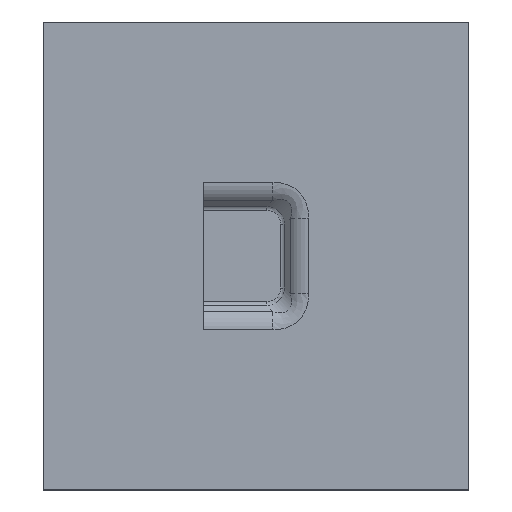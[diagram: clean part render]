
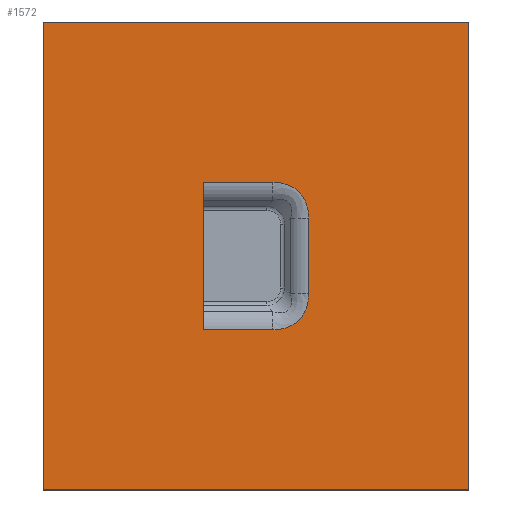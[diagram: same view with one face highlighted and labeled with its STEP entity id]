
A CAD part, top view. The second image highlights one B-rep face of the part: STEP entity #1572.
In plain terms, the highlighted planar face has unit normal (0, 0, 1).
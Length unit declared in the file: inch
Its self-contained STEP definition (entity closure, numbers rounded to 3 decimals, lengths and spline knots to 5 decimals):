
#591=CARTESIAN_POINT('',(-13.59019,2.49532,2.60036));
#592=VERTEX_POINT('',#591);
#599=CARTESIAN_POINT('',(-13.59019,3.95354,2.60036));
#600=VERTEX_POINT('',#599);
#601=CARTESIAN_POINT('',(-13.59019,3.22443,2.60036));
#602=DIRECTION('',(0.0,1.0,0.0));
#603=VECTOR('',#602,39.37008);
#604=LINE('',#601,#603);
#605=EDGE_CURVE('',#592,#600,#604,.T.);
#631=CARTESIAN_POINT('',(-12.26303,2.49532,2.60036));
#632=VERTEX_POINT('',#631);
#647=CARTESIAN_POINT('',(-12.26303,3.95354,2.60036));
#648=VERTEX_POINT('',#647);
#655=CARTESIAN_POINT('',(-12.26303,2.49532,2.60036));
#656=DIRECTION('',(0.0,1.0,0.0));
#657=VECTOR('',#656,39.37008);
#658=LINE('',#655,#657);
#659=EDGE_CURVE('',#632,#648,#658,.T.);
#677=CARTESIAN_POINT('',(-12.92661,2.49532,2.60036));
#678=DIRECTION('',(1.0,0.0,0.0));
#679=VECTOR('',#678,39.37008);
#680=LINE('',#677,#679);
#681=EDGE_CURVE('',#592,#632,#680,.T.);
#1028=CARTESIAN_POINT('',(-12.87405,2.99494,2.60036));
#1029=VERTEX_POINT('',#1028);
#1038=CARTESIAN_POINT('',(-13.09059,2.99494,2.60036));
#1039=VERTEX_POINT('',#1038);
#1047=CARTESIAN_POINT('',(-12.87405,2.99494,2.60036));
#1048=DIRECTION('',(1.0,0.0,0.0));
#1049=VECTOR('',#1048,39.37008);
#1050=LINE('',#1047,#1049);
#1051=EDGE_CURVE('',#1039,#1029,#1050,.T.);
#1069=CARTESIAN_POINT('',(-12.92661,3.95354,2.60036));
#1070=DIRECTION('',(1.0,0.0,0.0));
#1071=VECTOR('',#1070,39.37008);
#1072=LINE('',#1069,#1071);
#1073=EDGE_CURVE('',#600,#648,#1072,.T.);
#1326=CARTESIAN_POINT('',(-12.7627,3.1063,2.60036));
#1327=VERTEX_POINT('',#1326);
#1356=CARTESIAN_POINT('',(-12.87405,2.99494,2.60036));
#1357=CARTESIAN_POINT('',(-12.85849,2.99494,2.60036));
#1358=CARTESIAN_POINT('',(-12.83002,2.9989,2.60036));
#1359=CARTESIAN_POINT('',(-12.79204,3.02056,2.60036));
#1360=CARTESIAN_POINT('',(-12.76842,3.05652,2.60036));
#1361=CARTESIAN_POINT('',(-12.7627,3.08831,2.60036));
#1362=CARTESIAN_POINT('',(-12.7627,3.1063,2.60036));
#1363=B_SPLINE_CURVE_WITH_KNOTS('',3,(#1356,#1357,#1358,#1359,#1360,#1361,#1362),.UNSPECIFIED.,.F.,.F.,(4,1,1,1,4),(-0.99999,-0.75,-0.5,-0.25,0.0),.UNSPECIFIED.);
#1364=EDGE_CURVE('',#1029,#1327,#1363,.T.);
#1523=ORIENTED_EDGE('',*,*,#681,.T.);
#1524=ORIENTED_EDGE('',*,*,#659,.T.);
#1525=ORIENTED_EDGE('',*,*,#1073,.F.);
#1526=ORIENTED_EDGE('',*,*,#605,.F.);
#1527=EDGE_LOOP('',(#1523,#1524,#1525,#1526));
#1528=FACE_OUTER_BOUND('',#1527,.T.);
#1529=CARTESIAN_POINT('',(-12.7627,3.34252,2.60036));
#1530=VERTEX_POINT('',#1529);
#1531=CARTESIAN_POINT('',(-12.7627,3.34252,2.60036));
#1532=DIRECTION('',(0.0,-1.0,0.0));
#1533=VECTOR('',#1532,39.37008);
#1534=LINE('',#1531,#1533);
#1535=EDGE_CURVE('',#1530,#1327,#1534,.T.);
#1536=ORIENTED_EDGE('',*,*,#1535,.T.);
#1537=ORIENTED_EDGE('',*,*,#1364,.F.);
#1538=ORIENTED_EDGE('',*,*,#1051,.F.);
#1539=CARTESIAN_POINT('',(-13.09059,3.45388,2.60036));
#1540=VERTEX_POINT('',#1539);
#1541=CARTESIAN_POINT('',(-13.09059,2.9746,2.60036));
#1542=DIRECTION('',(0.0,1.0,0.0));
#1543=VECTOR('',#1542,39.37008);
#1544=LINE('',#1541,#1543);
#1545=EDGE_CURVE('',#1039,#1540,#1544,.T.);
#1546=ORIENTED_EDGE('',*,*,#1545,.T.);
#1547=CARTESIAN_POINT('',(-12.87405,3.45388,2.60036));
#1548=VERTEX_POINT('',#1547);
#1549=CARTESIAN_POINT('',(-13.09059,3.45388,2.60036));
#1550=DIRECTION('',(1.0,0.0,0.0));
#1551=VECTOR('',#1550,39.37008);
#1552=LINE('',#1549,#1551);
#1553=EDGE_CURVE('',#1540,#1548,#1552,.T.);
#1554=ORIENTED_EDGE('',*,*,#1553,.T.);
#1555=CARTESIAN_POINT('',(-12.87405,3.45388,2.60036));
#1556=CARTESIAN_POINT('',(-12.85606,3.45387,2.60036));
#1557=CARTESIAN_POINT('',(-12.82427,3.44815,2.60036));
#1558=CARTESIAN_POINT('',(-12.7883,3.42453,2.60036));
#1559=CARTESIAN_POINT('',(-12.76665,3.38654,2.60036));
#1560=CARTESIAN_POINT('',(-12.7627,3.35808,2.60036));
#1561=CARTESIAN_POINT('',(-12.7627,3.34252,2.60036));
#1562=B_SPLINE_CURVE_WITH_KNOTS('',3,(#1555,#1556,#1557,#1558,#1559,#1560,#1561),.UNSPECIFIED.,.F.,.F.,(4,1,1,1,4),(0.0,0.25,0.5,0.75,0.99999),.UNSPECIFIED.);
#1563=EDGE_CURVE('',#1548,#1530,#1562,.T.);
#1564=ORIENTED_EDGE('',*,*,#1563,.T.);
#1565=EDGE_LOOP('',(#1536,#1537,#1538,#1546,#1554,#1564));
#1566=FACE_BOUND('',#1565,.T.);
#1567=CARTESIAN_POINT('',(-12.26303,2.49532,2.60036));
#1568=DIRECTION('',(0.0,0.0,-1.0));
#1569=DIRECTION('',(1.0,0.0,0.0));
#1570=AXIS2_PLACEMENT_3D('',#1567,#1568,#1569);
#1571=PLANE('',#1570);
#1572=ADVANCED_FACE('',(#1528,#1566),#1571,.F.);
